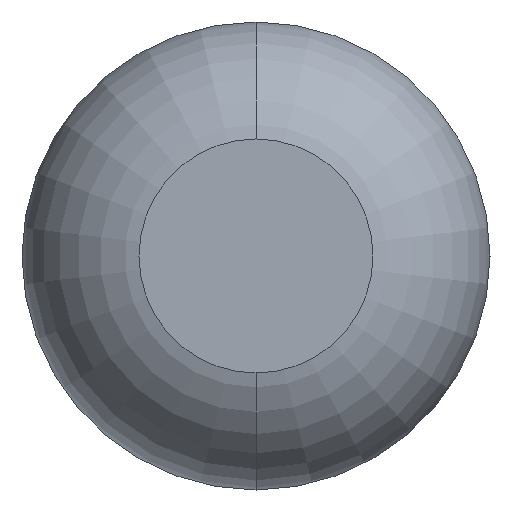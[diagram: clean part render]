
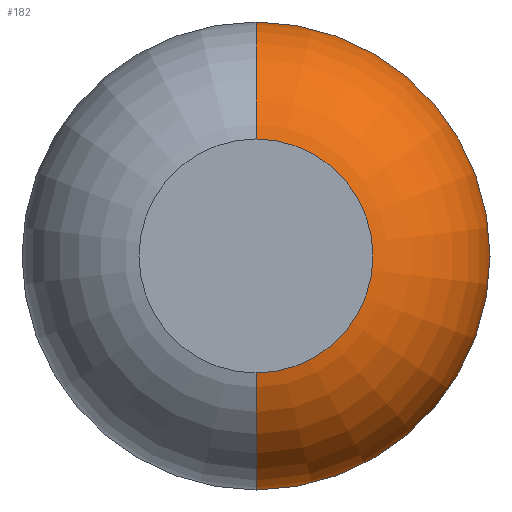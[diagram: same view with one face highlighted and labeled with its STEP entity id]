
A CAD part, front view. The second image highlights one B-rep face of the part: STEP entity #182.
In plain terms, the highlighted toroidal (fillet/blend) face has major radius 20 mm and minor radius 40 mm.
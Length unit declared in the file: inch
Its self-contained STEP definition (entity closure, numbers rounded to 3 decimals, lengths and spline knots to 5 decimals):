
#34 = CARTESIAN_POINT ( 'NONE',  ( 0., 1.5748, 0. ) ) ;
#98 = EDGE_CURVE ( 'NONE', #593, #1084, #552, .T. ) ;
#182 = ADVANCED_FACE ( 'NONE', ( #304 ), #840, .T. ) ;
#189 = ORIENTED_EDGE ( 'NONE', *, *, #98, .T. ) ;
#204 = DIRECTION ( 'NONE',  ( 0., -1., 0. ) ) ;
#219 = CIRCLE ( 'NONE', #524, 0.7874 ) ;
#220 = AXIS2_PLACEMENT_3D ( 'NONE', #1105, #522, #332 ) ;
#255 = CARTESIAN_POINT ( 'NONE',  ( 0., 0., 0. ) ) ;
#260 = VERTEX_POINT ( 'NONE', #509 ) ;
#304 = FACE_OUTER_BOUND ( 'NONE', #1082, .T. ) ;
#305 = CARTESIAN_POINT ( 'NONE',  ( 0., 1.5748, 2.3622 ) ) ;
#332 = DIRECTION ( 'NONE',  ( 0., 0., 1. ) ) ;
#351 = DIRECTION ( 'NONE',  ( 0., 0., -1. ) ) ;
#358 = VERTEX_POINT ( 'NONE', #705 ) ;
#408 = AXIS2_PLACEMENT_3D ( 'NONE', #34, #204, #902 ) ;
#413 = CIRCLE ( 'NONE', #220, 1.5748 ) ;
#462 = DIRECTION ( 'NONE',  ( 0., -1., 0. ) ) ;
#509 = CARTESIAN_POINT ( 'NONE',  ( 0., 0., 0.7874 ) ) ;
#517 = DIRECTION ( 'NONE',  ( 0., 0., -1. ) ) ;
#522 = DIRECTION ( 'NONE',  ( -1., 0., 0. ) ) ;
#524 = AXIS2_PLACEMENT_3D ( 'NONE', #255, #601, #517 ) ;
#527 = ORIENTED_EDGE ( 'NONE', *, *, #898, .F. ) ;
#528 = DIRECTION ( 'NONE',  ( 1., 0., 0. ) ) ;
#552 = CIRCLE ( 'NONE', #408, 2.3622 ) ;
#593 = VERTEX_POINT ( 'NONE', #1036 ) ;
#601 = DIRECTION ( 'NONE',  ( 0., -1., 0. ) ) ;
#705 = CARTESIAN_POINT ( 'NONE',  ( 0., 0., -0.7874 ) ) ;
#776 = AXIS2_PLACEMENT_3D ( 'NONE', #886, #528, #351 ) ;
#805 = DIRECTION ( 'NONE',  ( 0., 0., -1. ) ) ;
#840 = TOROIDAL_SURFACE ( 'NONE', #983, 0.7874, 1.5748 ) ;
#863 = CIRCLE ( 'NONE', #776, 1.5748 ) ;
#869 = EDGE_CURVE ( 'NONE', #358, #260, #219, .T. ) ;
#886 = CARTESIAN_POINT ( 'NONE',  ( 0., 1.5748, 0.7874 ) ) ;
#898 = EDGE_CURVE ( 'NONE', #593, #358, #413, .T. ) ;
#902 = DIRECTION ( 'NONE',  ( 0., 0., -1. ) ) ;
#915 = CARTESIAN_POINT ( 'NONE',  ( 0., 1.5748, 0. ) ) ;
#919 = ORIENTED_EDGE ( 'NONE', *, *, #1025, .T. ) ;
#922 = ORIENTED_EDGE ( 'NONE', *, *, #869, .F. ) ;
#983 = AXIS2_PLACEMENT_3D ( 'NONE', #915, #462, #805 ) ;
#1025 = EDGE_CURVE ( 'NONE', #1084, #260, #863, .T. ) ;
#1036 = CARTESIAN_POINT ( 'NONE',  ( 0., 1.5748, -2.3622 ) ) ;
#1082 = EDGE_LOOP ( 'NONE', ( #189, #919, #922, #527 ) ) ;
#1084 = VERTEX_POINT ( 'NONE', #305 ) ;
#1105 = CARTESIAN_POINT ( 'NONE',  ( 0., 1.5748, -0.7874 ) ) ;
